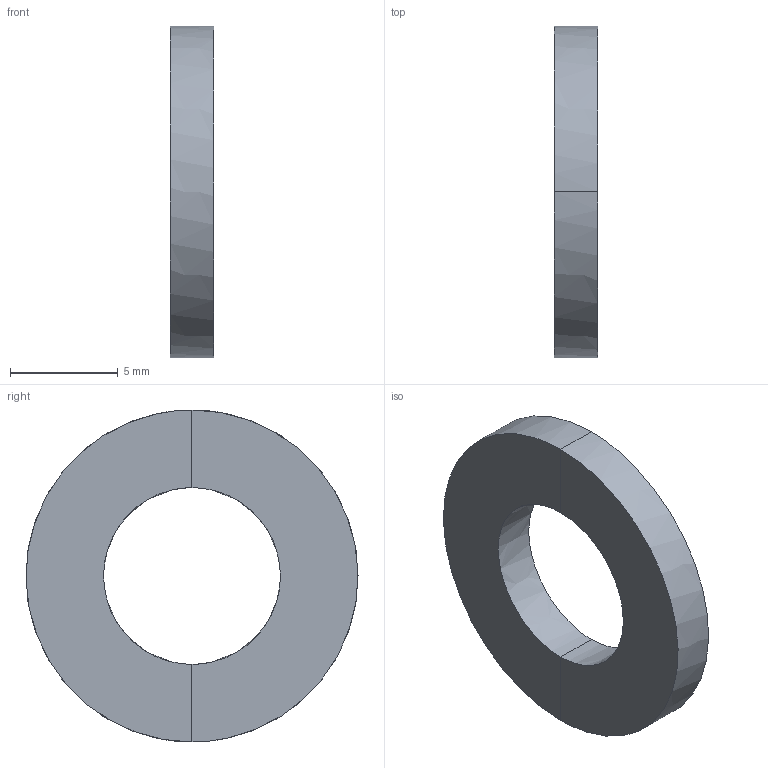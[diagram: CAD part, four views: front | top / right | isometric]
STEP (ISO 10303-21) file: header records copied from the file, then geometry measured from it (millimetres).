
FILE_DESCRIPTION (( 'STEP AP214' ), '1' );
FILE_NAME ('HP-100WJ-16.STEP', '2020-07-04T07:59:00', ( '' ), ( '' ), 'SwSTEP 2.0', 'SolidWorks 2010', '' );
FILE_SCHEMA (( 'AUTOMOTIVE_DESIGN' ));
Length unit declared in the file: millimetre
Products named in the file (1): HP-100WJ-16
Bounding box: 2 x 15.4 x 15.4 mm (x, y, z)
Volume: 266.3 mm3; surface area: 415.2 mm2
Topology: 1 solids, 1 shells, 8 faces, 16 edges, 8 vertices
Faces by surface type: bspline 8
Entity records: 946 total; most frequent: CARTESIAN_POINT 801, ORIENTED_EDGE 32, B_SPLINE_CURVE_WITH_KNOTS 16, EDGE_CURVE 16, ADVANCED_FACE 8, VERTEX_POINT 8, EDGE_LOOP 8, FACE_OUTER_BOUND 8
